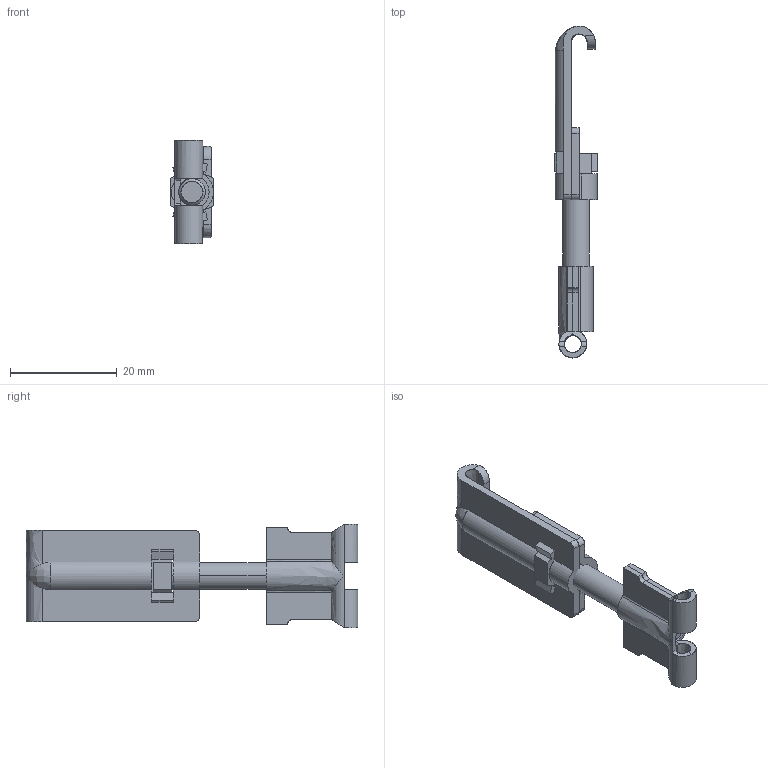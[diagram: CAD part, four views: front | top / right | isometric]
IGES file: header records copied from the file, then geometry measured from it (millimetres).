
Start section: SolidWorks IGES FILE using analytic representation for surfaces
Global section: file name: C:\Documents and Settings\lecoutey\Bureau\GR 62\Assemblage GR62.IGS; native system: SolidWorks 2004 by SolidWorks Corporation; preprocessor: Version 5.3; author: lecoutey; date: 050330.160117; units: millimetre
Bounding box: 8 x 62.25 x 19.4 mm (x, y, z)
Surface area: 4237.5 mm2 (no closed solid volume)
Topology: 0 solids, 0 shells, 213 faces, 2009 edges, 1945 vertices
Faces by surface type: revolution 124, bspline 89
